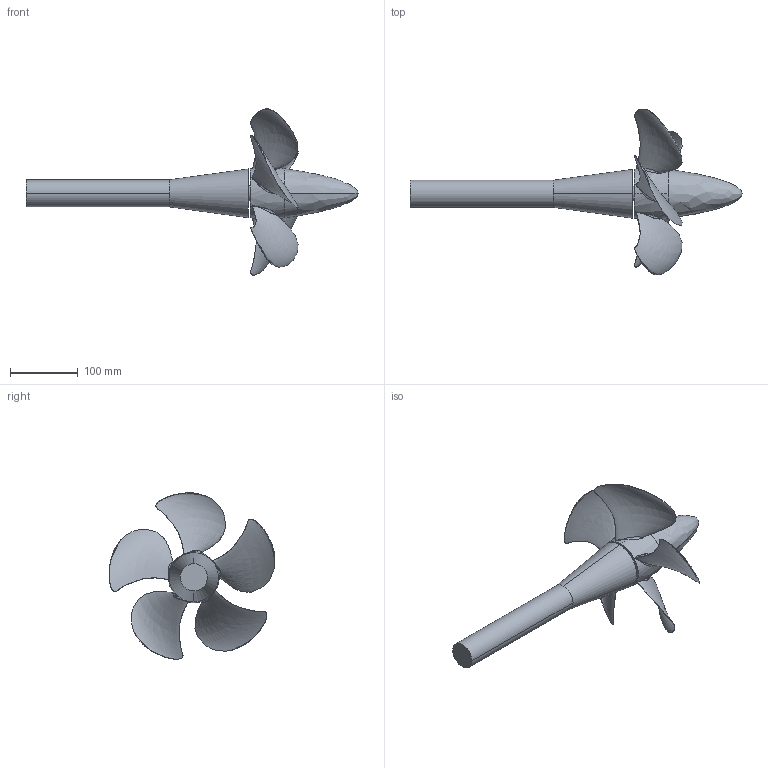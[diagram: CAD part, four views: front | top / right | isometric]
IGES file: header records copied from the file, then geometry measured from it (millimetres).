
Global section: file name: K:\SMP2011_VP1304\3D-Daten\case2-1_PPTC_geo_no_gap.igs; native system: Rhinoceros ( Jul  9 2009 ); preprocessor: Trout Lake IGES 012 Jul  9 2009; date: 110826.092719; units: millimetre
Bounding box: 489.69 x 244.7 x 245.36 mm (x, y, z)
Surface area: 163403.9 mm2 (no closed solid volume)
Topology: 0 solids, 0 shells, 35 faces, 1835 edges, 1852 vertices
Faces by surface type: bspline 32, plane 3
